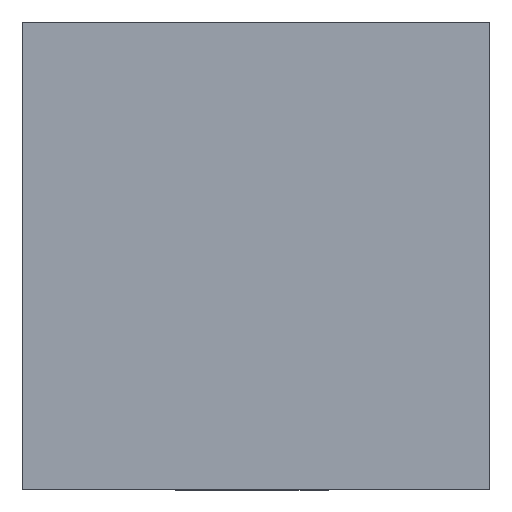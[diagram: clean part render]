
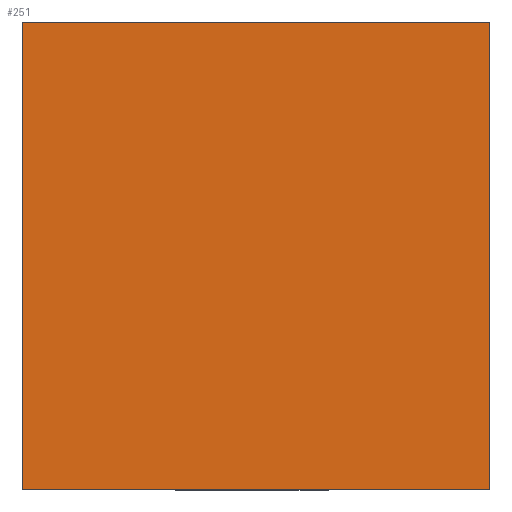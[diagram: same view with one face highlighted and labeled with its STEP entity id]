
A CAD part, top view. The second image highlights one B-rep face of the part: STEP entity #251.
In plain terms, the highlighted planar face has unit normal (0, 0, 1).
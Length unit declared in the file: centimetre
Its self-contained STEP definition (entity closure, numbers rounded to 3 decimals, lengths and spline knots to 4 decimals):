
#43 = DIRECTION ( 'NONE',  ( 1., 0., 0. ) ) ;
#110 = EDGE_LOOP ( 'NONE', ( #276, #345, #629, #350 ) ) ;
#120 = CARTESIAN_POINT ( 'NONE',  ( 0., 0., 1000. ) ) ;
#134 = AXIS2_PLACEMENT_3D ( 'NONE', #451, #514, #812 ) ;
#172 = CARTESIAN_POINT ( 'NONE',  ( 0., 1000., 1000. ) ) ;
#179 = VECTOR ( 'NONE', #869, 100. ) ;
#199 = CARTESIAN_POINT ( 'NONE',  ( 0., 1000., 1000. ) ) ;
#204 = CARTESIAN_POINT ( 'NONE',  ( 1000., 0., 1000. ) ) ;
#238 = CARTESIAN_POINT ( 'NONE',  ( 1000., 1000., 1000. ) ) ;
#251 = ADVANCED_FACE ( 'NONE', ( #307 ), #957, .T. ) ;
#273 = CARTESIAN_POINT ( 'NONE',  ( 0., 0., 1000. ) ) ;
#276 = ORIENTED_EDGE ( 'NONE', *, *, #748, .T. ) ;
#289 = VERTEX_POINT ( 'NONE', #946 ) ;
#307 = FACE_OUTER_BOUND ( 'NONE', #110, .T. ) ;
#314 = LINE ( 'NONE', #238, #476 ) ;
#317 = DIRECTION ( 'NONE',  ( 0., -1., 0. ) ) ;
#345 = ORIENTED_EDGE ( 'NONE', *, *, #887, .T. ) ;
#346 = CARTESIAN_POINT ( 'NONE',  ( 0., 1000., 1000. ) ) ;
#350 = ORIENTED_EDGE ( 'NONE', *, *, #630, .T. ) ;
#410 = LINE ( 'NONE', #199, #179 ) ;
#451 = CARTESIAN_POINT ( 'NONE',  ( 0., 0., 1000. ) ) ;
#476 = VECTOR ( 'NONE', #543, 100. ) ;
#514 = DIRECTION ( 'NONE',  ( 0., 0., 1. ) ) ;
#543 = DIRECTION ( 'NONE',  ( 0., 1., 0. ) ) ;
#566 = VERTEX_POINT ( 'NONE', #204 ) ;
#629 = ORIENTED_EDGE ( 'NONE', *, *, #800, .T. ) ;
#630 = EDGE_CURVE ( 'NONE', #289, #914, #410, .T. ) ;
#685 = LINE ( 'NONE', #172, #788 ) ;
#748 = EDGE_CURVE ( 'NONE', #914, #911, #685, .T. ) ;
#788 = VECTOR ( 'NONE', #317, 100. ) ;
#800 = EDGE_CURVE ( 'NONE', #566, #289, #314, .T. ) ;
#812 = DIRECTION ( 'NONE',  ( 1., 0., 0. ) ) ;
#836 = VECTOR ( 'NONE', #43, 100. ) ;
#862 = LINE ( 'NONE', #273, #836 ) ;
#869 = DIRECTION ( 'NONE',  ( -1., 0., 0. ) ) ;
#887 = EDGE_CURVE ( 'NONE', #911, #566, #862, .T. ) ;
#911 = VERTEX_POINT ( 'NONE', #120 ) ;
#914 = VERTEX_POINT ( 'NONE', #346 ) ;
#946 = CARTESIAN_POINT ( 'NONE',  ( 1000., 1000., 1000. ) ) ;
#957 = PLANE ( 'NONE',  #134 ) ;
